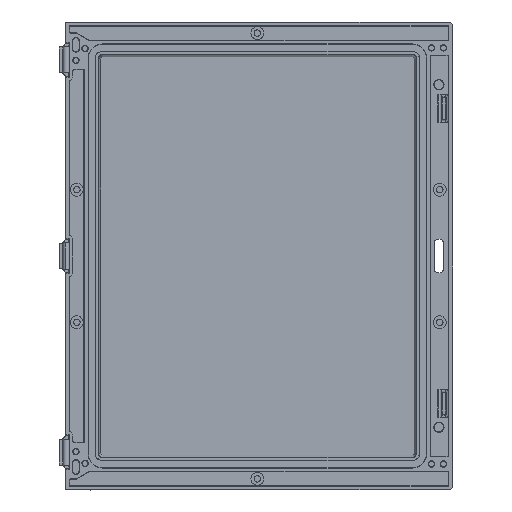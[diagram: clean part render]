
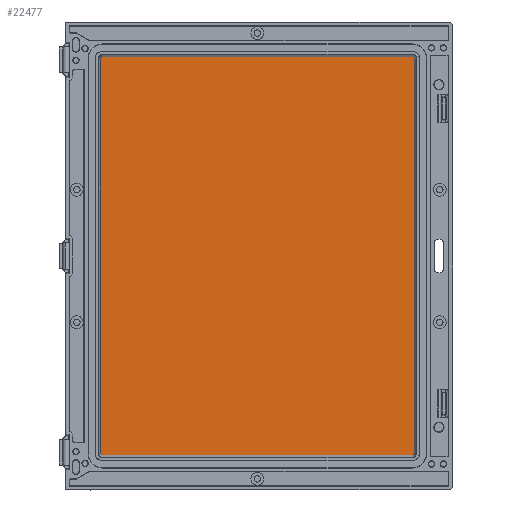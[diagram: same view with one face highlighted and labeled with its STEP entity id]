
A CAD part, top view. The second image highlights one B-rep face of the part: STEP entity #22477.
In plain terms, the highlighted planar face has unit normal (0, 0, 1).
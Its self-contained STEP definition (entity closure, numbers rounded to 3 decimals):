
#402 = DIRECTION ( 'NONE',  ( 0., -1., 0. ) ) ;
#818 = CARTESIAN_POINT ( 'NONE',  ( -83.993, -107., -5.714 ) ) ;
#1176 = DIRECTION ( 'NONE',  ( 0., 0., 1. ) ) ;
#1259 = VECTOR ( 'NONE', #23382, 1000. ) ;
#1469 = CARTESIAN_POINT ( 'NONE',  ( 84.007, 107., -5.714 ) ) ;
#1659 = VECTOR ( 'NONE', #8131, 1000. ) ;
#2158 = DIRECTION ( 'NONE',  ( 0., 0., 1. ) ) ;
#2424 = CARTESIAN_POINT ( 'NONE',  ( -83.993, 108.134, -5.714 ) ) ;
#2777 = CARTESIAN_POINT ( 'NONE',  ( 85.142, -107., -5.714 ) ) ;
#2896 = DIRECTION ( 'NONE',  ( 1., 0., 0. ) ) ;
#2901 = ORIENTED_EDGE ( 'NONE', *, *, #6667, .T. ) ;
#3170 = PLANE ( 'NONE',  #10311 ) ;
#3558 = DIRECTION ( 'NONE',  ( 1., 0., 0. ) ) ;
#3599 = VERTEX_POINT ( 'NONE', #20898 ) ;
#3795 = VERTEX_POINT ( 'NONE', #24743 ) ;
#4075 = CIRCLE ( 'NONE', #15435, 1.134 ) ;
#4371 = AXIS2_PLACEMENT_3D ( 'NONE', #5060, #19448, #7128 ) ;
#4810 = CIRCLE ( 'NONE', #11297, 1.134 ) ;
#5060 = CARTESIAN_POINT ( 'NONE',  ( -83.993, 107., -5.714 ) ) ;
#5494 = CIRCLE ( 'NONE', #24715, 1.134 ) ;
#6188 = VERTEX_POINT ( 'NONE', #23949 ) ;
#6667 = EDGE_CURVE ( 'NONE', #25465, #6188, #17004, .T. ) ;
#6894 = CARTESIAN_POINT ( 'NONE',  ( 85.142, -107., -5.714 ) ) ;
#7128 = DIRECTION ( 'NONE',  ( 1., 0., 0. ) ) ;
#7764 = LINE ( 'NONE', #20523, #1659 ) ;
#8131 = DIRECTION ( 'NONE',  ( 1., 0., 0. ) ) ;
#8739 = EDGE_CURVE ( 'NONE', #6188, #20976, #4075, .T. ) ;
#8997 = CARTESIAN_POINT ( 'NONE',  ( 84.007, 108.134, -5.714 ) ) ;
#9676 = VERTEX_POINT ( 'NONE', #11519 ) ;
#10311 = AXIS2_PLACEMENT_3D ( 'NONE', #13485, #1176, #15551 ) ;
#11012 = VECTOR ( 'NONE', #402, 1000. ) ;
#11297 = AXIS2_PLACEMENT_3D ( 'NONE', #818, #15190, #2896 ) ;
#11519 = CARTESIAN_POINT ( 'NONE',  ( -83.993, 108.134, -5.714 ) ) ;
#11881 = ORIENTED_EDGE ( 'NONE', *, *, #13964, .T. ) ;
#12423 = ORIENTED_EDGE ( 'NONE', *, *, #13316, .T. ) ;
#12742 = ORIENTED_EDGE ( 'NONE', *, *, #8739, .T. ) ;
#13316 = EDGE_CURVE ( 'NONE', #3599, #20297, #7764, .T. ) ;
#13485 = CARTESIAN_POINT ( 'NONE',  ( -85.127, -108.135, -5.714 ) ) ;
#13964 = EDGE_CURVE ( 'NONE', #3795, #3599, #4810, .T. ) ;
#14464 = CARTESIAN_POINT ( 'NONE',  ( 84.007, -107., -5.714 ) ) ;
#15190 = DIRECTION ( 'NONE',  ( 0., 0., 1. ) ) ;
#15422 = ORIENTED_EDGE ( 'NONE', *, *, #18184, .T. ) ;
#15435 = AXIS2_PLACEMENT_3D ( 'NONE', #1469, #15841, #3558 ) ;
#15551 = DIRECTION ( 'NONE',  ( 1., 0., 0. ) ) ;
#15841 = DIRECTION ( 'NONE',  ( 0., 0., 1. ) ) ;
#15992 = ORIENTED_EDGE ( 'NONE', *, *, #18601, .T. ) ;
#16461 = LINE ( 'NONE', #22961, #11012 ) ;
#16535 = DIRECTION ( 'NONE',  ( 1., 0., 0. ) ) ;
#17004 = LINE ( 'NONE', #2777, #1259 ) ;
#18016 = LINE ( 'NONE', #2424, #22850 ) ;
#18184 = EDGE_CURVE ( 'NONE', #18248, #3795, #16461, .T. ) ;
#18248 = VERTEX_POINT ( 'NONE', #25251 ) ;
#18601 = EDGE_CURVE ( 'NONE', #20297, #25465, #5494, .T. ) ;
#18654 = EDGE_CURVE ( 'NONE', #20976, #9676, #18016, .T. ) ;
#18871 = EDGE_CURVE ( 'NONE', #9676, #18248, #21908, .T. ) ;
#18929 = EDGE_LOOP ( 'NONE', ( #20516, #23631, #15422, #11881, #12423, #15992, #2901, #12742 ) ) ;
#19205 = CARTESIAN_POINT ( 'NONE',  ( 84.007, -108.135, -5.714 ) ) ;
#19448 = DIRECTION ( 'NONE',  ( 0., 0., 1. ) ) ;
#20297 = VERTEX_POINT ( 'NONE', #19205 ) ;
#20516 = ORIENTED_EDGE ( 'NONE', *, *, #18654, .T. ) ;
#20523 = CARTESIAN_POINT ( 'NONE',  ( -83.993, -108.135, -5.714 ) ) ;
#20898 = CARTESIAN_POINT ( 'NONE',  ( -83.993, -108.135, -5.714 ) ) ;
#20976 = VERTEX_POINT ( 'NONE', #8997 ) ;
#21908 = CIRCLE ( 'NONE', #4371, 1.134 ) ;
#22477 = ADVANCED_FACE ( 'N', ( #26676 ), #3170, .T. ) ;
#22850 = VECTOR ( 'NONE', #22938, 1000. ) ;
#22938 = DIRECTION ( 'NONE',  ( -1., 0., 0. ) ) ;
#22961 = CARTESIAN_POINT ( 'NONE',  ( -85.127, -107., -5.714 ) ) ;
#23382 = DIRECTION ( 'NONE',  ( 0., 1., 0. ) ) ;
#23631 = ORIENTED_EDGE ( 'NONE', *, *, #18871, .T. ) ;
#23949 = CARTESIAN_POINT ( 'NONE',  ( 85.142, 107., -5.714 ) ) ;
#24715 = AXIS2_PLACEMENT_3D ( 'NONE', #14464, #2158, #16535 ) ;
#24743 = CARTESIAN_POINT ( 'NONE',  ( -85.127, -107., -5.714 ) ) ;
#25251 = CARTESIAN_POINT ( 'NONE',  ( -85.127, 107., -5.714 ) ) ;
#25465 = VERTEX_POINT ( 'NONE', #6894 ) ;
#26676 = FACE_OUTER_BOUND ( 'NONE', #18929, .T. ) ;
